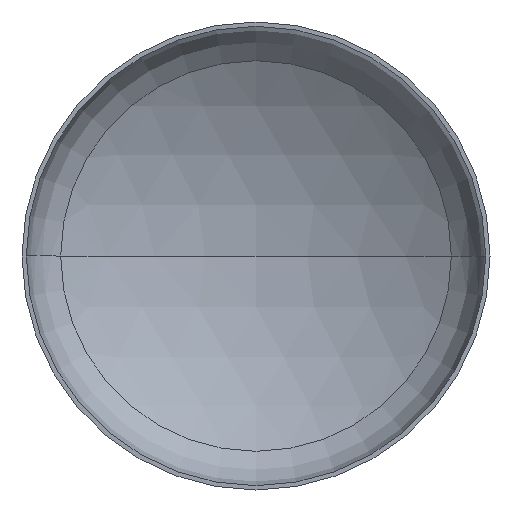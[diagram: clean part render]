
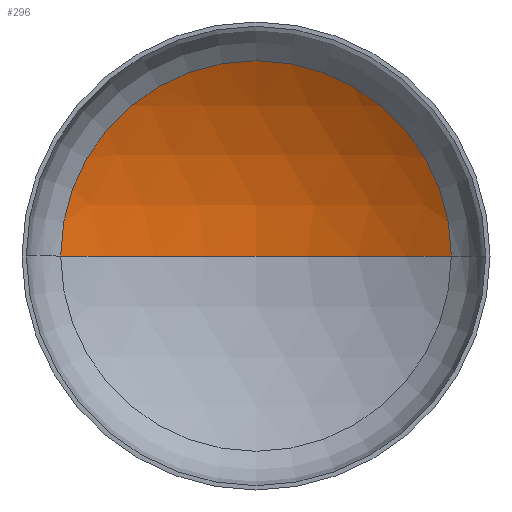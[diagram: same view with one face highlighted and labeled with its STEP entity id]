
A CAD part, front view. The second image highlights one B-rep face of the part: STEP entity #296.
In plain terms, the highlighted spherical face has radius 2400 mm.
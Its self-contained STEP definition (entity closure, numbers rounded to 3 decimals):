
#8 = DIRECTION ( 'NONE',  ( 1., 0., 0. ) ) ;
#9 = EDGE_LOOP ( 'NONE', ( #12, #98, #178 ) ) ;
#12 = ORIENTED_EDGE ( 'NONE', *, *, #368, .F. ) ;
#13 = DIRECTION ( 'NONE',  ( 0., -1., 0. ) ) ;
#20 = AXIS2_PLACEMENT_3D ( 'NONE', #141, #155, #112 ) ;
#25 = VERTEX_POINT ( 'NONE', #294 ) ;
#29 = CARTESIAN_POINT ( 'NONE',  ( 0., 477.454, 0. ) ) ;
#50 = AXIS2_PLACEMENT_3D ( 'NONE', #63, #80, #179 ) ;
#63 = CARTESIAN_POINT ( 'NONE',  ( 0., -1570.13, 0. ) ) ;
#78 = VERTEX_POINT ( 'NONE', #232 ) ;
#80 = DIRECTION ( 'NONE',  ( 0., 0., -1. ) ) ;
#95 = AXIS2_PLACEMENT_3D ( 'NONE', #29, #13, #8 ) ;
#97 = AXIS2_PLACEMENT_3D ( 'NONE', #237, #375, #395 ) ;
#98 = ORIENTED_EDGE ( 'NONE', *, *, #164, .T. ) ;
#112 = DIRECTION ( 'NONE',  ( 1., 0., 0. ) ) ;
#130 = CIRCLE ( 'NONE', #97, 2400. ) ;
#141 = CARTESIAN_POINT ( 'NONE',  ( 0., -1570.13, 0. ) ) ;
#155 = DIRECTION ( 'NONE',  ( 0., 0., 1. ) ) ;
#156 = EDGE_CURVE ( 'NONE', #78, #231, #332, .T. ) ;
#162 = CIRCLE ( 'NONE', #20, 2400. ) ;
#164 = EDGE_CURVE ( 'NONE', #25, #78, #130, .T. ) ;
#178 = ORIENTED_EDGE ( 'NONE', *, *, #156, .T. ) ;
#179 = DIRECTION ( 'NONE',  ( -1., 0., 0. ) ) ;
#194 = SPHERICAL_SURFACE ( 'NONE', #50, 2400. ) ;
#231 = VERTEX_POINT ( 'NONE', #246 ) ;
#232 = CARTESIAN_POINT ( 'NONE',  ( 1251.959, 477.454, 0. ) ) ;
#237 = CARTESIAN_POINT ( 'NONE',  ( 0., -1570.13, 0. ) ) ;
#246 = CARTESIAN_POINT ( 'NONE',  ( -1251.959, 477.454, 0. ) ) ;
#294 = CARTESIAN_POINT ( 'NONE',  ( 0., 829.87, 0. ) ) ;
#296 = ADVANCED_FACE ( 'NONE', ( #306 ), #194, .F. ) ;
#306 = FACE_OUTER_BOUND ( 'NONE', #9, .T. ) ;
#332 = CIRCLE ( 'NONE', #95, 1251.959 ) ;
#368 = EDGE_CURVE ( 'NONE', #25, #231, #162, .T. ) ;
#375 = DIRECTION ( 'NONE',  ( 0., 0., -1. ) ) ;
#395 = DIRECTION ( 'NONE',  ( -1., 0., 0. ) ) ;
